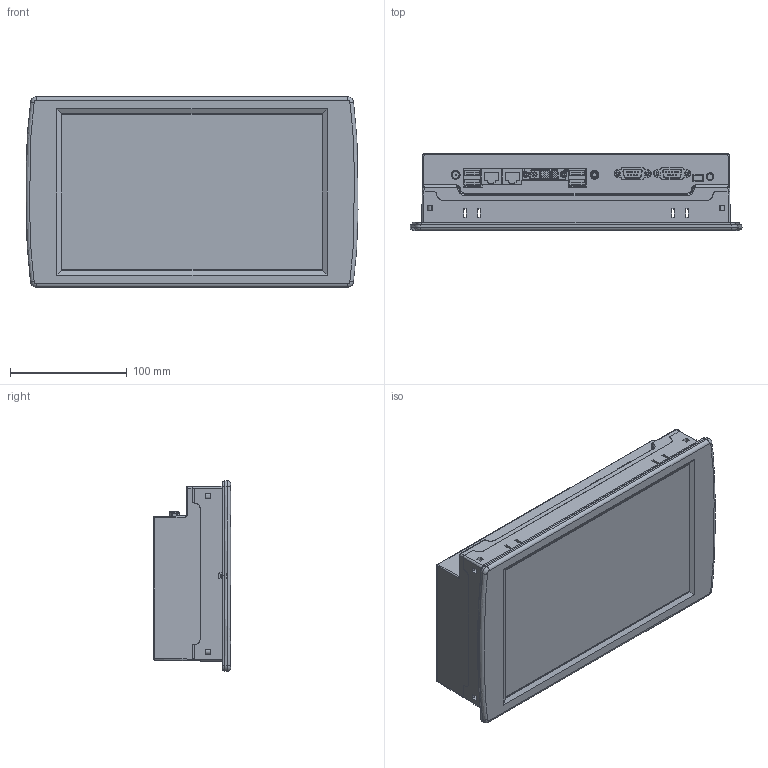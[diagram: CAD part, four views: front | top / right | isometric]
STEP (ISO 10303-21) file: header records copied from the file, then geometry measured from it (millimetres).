
FILE_DESCRIPTION (( 'STEP AP214' ), '1' );
FILE_NAME ('CPCV5-102BR 餌轎.STEP', '2017-04-24T09:15:25', ( 'Registered User' ), ( 'Microsoft Corporation' ), 'SwSTEP 2.0', 'SolidWorks 2016', '' );
FILE_SCHEMA (( 'AUTOMOTIVE_DESIGN' ));
Length unit declared in the file: millimetre
Products named in the file (1): CPCV5-102BR 餌轎
Bounding box: 283.88 x 66.2 x 163 mm (x, y, z)
Surface area: 589473.8 mm2 (no closed solid volume)
Topology: 0 solids, 114 shells, 4710 faces, 13965 edges, 9402 vertices
Faces by surface type: plane 3278, cylinder 835, bspline 364, torus 110, cone 99, sphere 24
Entity records: 224682 total; most frequent: CARTESIAN_POINT 50604, ORIENTED_EDGE 25606, DIRECTION 22915, EDGE_CURVE 13940, LINE 10539, VECTOR 10539, VERTEX_POINT 9391, AXIS2_PLACEMENT_3D 6188
